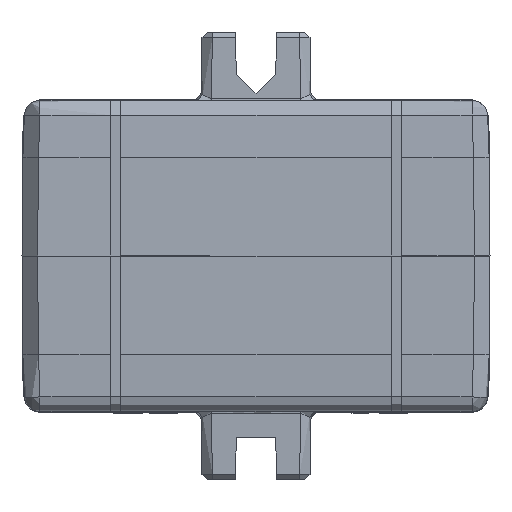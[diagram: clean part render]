
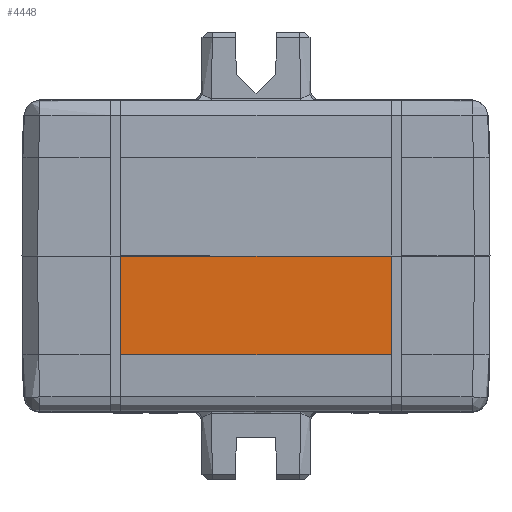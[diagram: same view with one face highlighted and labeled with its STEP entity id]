
A CAD part, front view. The second image highlights one B-rep face of the part: STEP entity #4448.
In plain terms, the highlighted planar face has unit normal (0, -1, -0.009).
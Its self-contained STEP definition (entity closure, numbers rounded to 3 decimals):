
#1137 = ORIENTED_EDGE ( 'NONE', *, *, #6109, .T. ) ;
#2016 = CARTESIAN_POINT ( 'NONE',  ( -13., -32.506, -9.5 ) ) ;
#2522 = LINE ( 'NONE', #2016, #23355 ) ;
#4233 = ORIENTED_EDGE ( 'NONE', *, *, #17182, .T. ) ;
#4448 = ADVANCED_FACE ( 'NONE', ( #32089 ), #25156, .T. ) ;
#4983 = CARTESIAN_POINT ( 'NONE',  ( 13., -32.506, -9.5 ) ) ;
#5165 = ORIENTED_EDGE ( 'NONE', *, *, #21614, .T. ) ;
#6109 = EDGE_CURVE ( 'NONE', #25813, #11590, #13710, .T. ) ;
#8705 = AXIS2_PLACEMENT_3D ( 'NONE', #33106, #40305, #32603 ) ;
#11167 = DIRECTION ( 'NONE',  ( -1., 0., 0. ) ) ;
#11590 = VERTEX_POINT ( 'NONE', #26976 ) ;
#12219 = VECTOR ( 'NONE', #45580, 1000. ) ;
#13710 = LINE ( 'NONE', #45834, #12219 ) ;
#16664 = CARTESIAN_POINT ( 'NONE',  ( -13., -32.588, 0. ) ) ;
#17182 = EDGE_CURVE ( 'NONE', #25217, #25813, #39297, .T. ) ;
#17759 = CARTESIAN_POINT ( 'NONE',  ( 13., -32.506, -9.5 ) ) ;
#21614 = EDGE_CURVE ( 'NONE', #46536, #25217, #24949, .T. ) ;
#23355 = VECTOR ( 'NONE', #34443, 1000. ) ;
#24949 = LINE ( 'NONE', #4983, #34066 ) ;
#25156 = PLANE ( 'NONE',  #8705 ) ;
#25217 = VERTEX_POINT ( 'NONE', #42254 ) ;
#25813 = VERTEX_POINT ( 'NONE', #16664 ) ;
#26976 = CARTESIAN_POINT ( 'NONE',  ( -13., -32.506, -9.5 ) ) ;
#28164 = CARTESIAN_POINT ( 'NONE',  ( -13., -32.588, 0. ) ) ;
#32089 = FACE_OUTER_BOUND ( 'NONE', #52258, .T. ) ;
#32603 = DIRECTION ( 'NONE',  ( 0., 0.009, -1. ) ) ;
#33106 = CARTESIAN_POINT ( 'NONE',  ( -13., -32.506, -9.5 ) ) ;
#34066 = VECTOR ( 'NONE', #41144, 1000. ) ;
#34443 = DIRECTION ( 'NONE',  ( -1., 0., 0. ) ) ;
#37955 = EDGE_CURVE ( 'NONE', #46536, #11590, #2522, .T. ) ;
#39297 = LINE ( 'NONE', #28164, #50773 ) ;
#40305 = DIRECTION ( 'NONE',  ( 0., -1., -0.009 ) ) ;
#41144 = DIRECTION ( 'NONE',  ( 0., -0.009, 1. ) ) ;
#42254 = CARTESIAN_POINT ( 'NONE',  ( 13., -32.588, 0. ) ) ;
#45580 = DIRECTION ( 'NONE',  ( 0., 0.009, -1. ) ) ;
#45834 = CARTESIAN_POINT ( 'NONE',  ( -13., -32.589, 0. ) ) ;
#46536 = VERTEX_POINT ( 'NONE', #17759 ) ;
#50773 = VECTOR ( 'NONE', #11167, 1000. ) ;
#50992 = ORIENTED_EDGE ( 'NONE', *, *, #37955, .F. ) ;
#52258 = EDGE_LOOP ( 'NONE', ( #1137, #50992, #5165, #4233 ) ) ;
